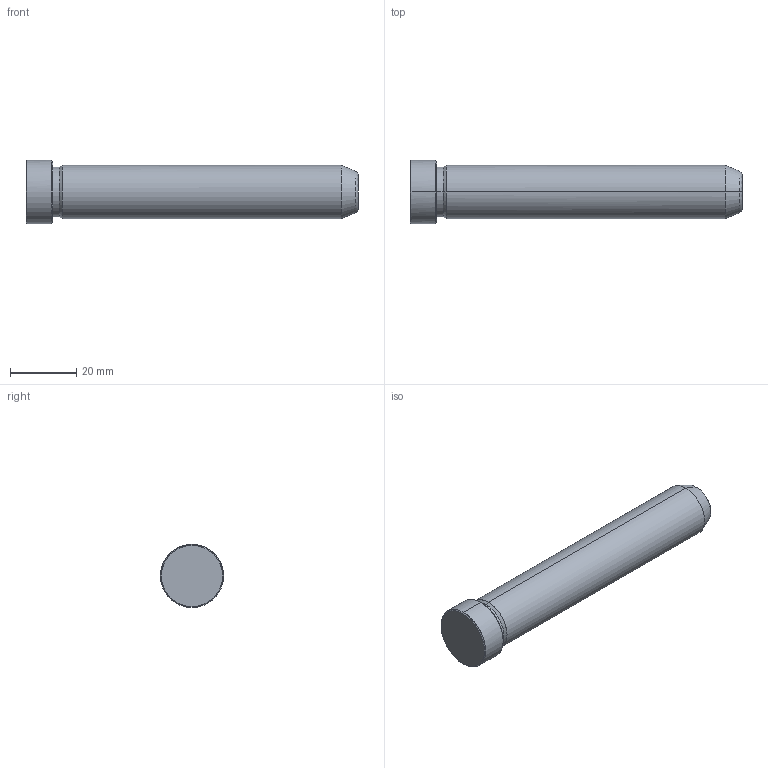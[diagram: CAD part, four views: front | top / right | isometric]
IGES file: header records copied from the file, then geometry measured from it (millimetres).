
Start section: START RECORD GO HERE.
Global section: file name: 549-16X100.igs; native system: DASSAULT SYSTEMES CATIA V5 R20 - www.3ds.com; preprocessor: CATIA Version 5 Release 20 ; author: Utente; organization: NB04-ASUS; date: 20211211.103408; units: millimetre
Bounding box: 100 x 19 x 19 mm (x, y, z)
Surface area: 5561.5 mm2 (no closed solid volume)
Topology: 0 solids, 0 shells, 19 faces, 112 edges, 112 vertices
Faces by surface type: revolution 16, plane 3
